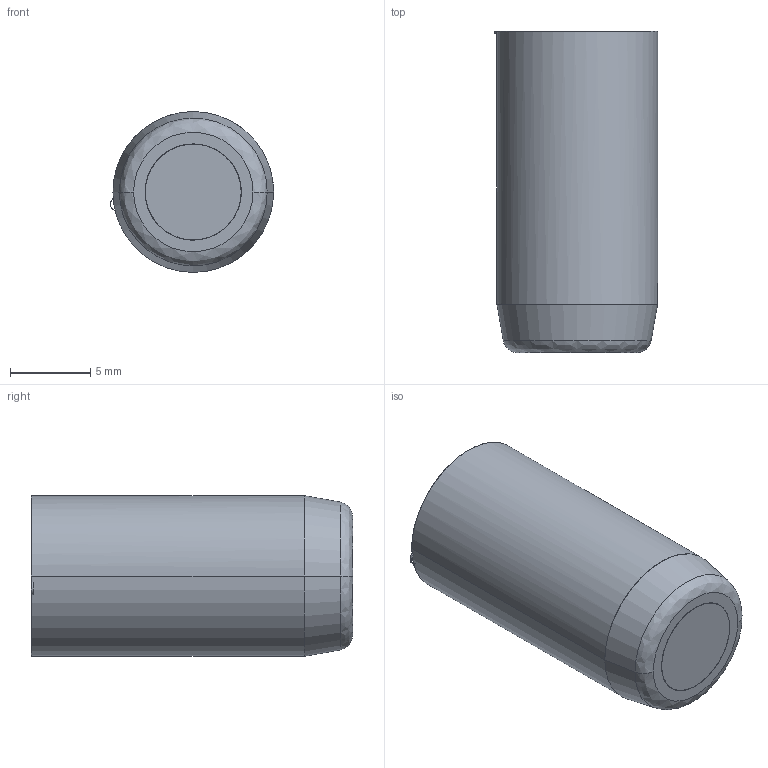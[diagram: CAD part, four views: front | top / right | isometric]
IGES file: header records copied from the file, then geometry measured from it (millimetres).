
Start section: START RECORD GO HERE.
Global section: file name: fa1057sf.igs; native system: DASSAULT SYSTEMES CATIA V5 R20 - www.3ds.com; preprocessor: CATIA Version 5 Release 20 ; author: Utente; organization: NB04-ASUS; date: 20201108.084132; units: millimetre
Bounding box: 10.15 x 20 x 10 mm (x, y, z)
Surface area: 1741.5 mm2 (no closed solid volume)
Topology: 0 solids, 0 shells, 398 faces, 1959 edges, 1948 vertices
Faces by surface type: revolution 183, plane 139, bspline 76
